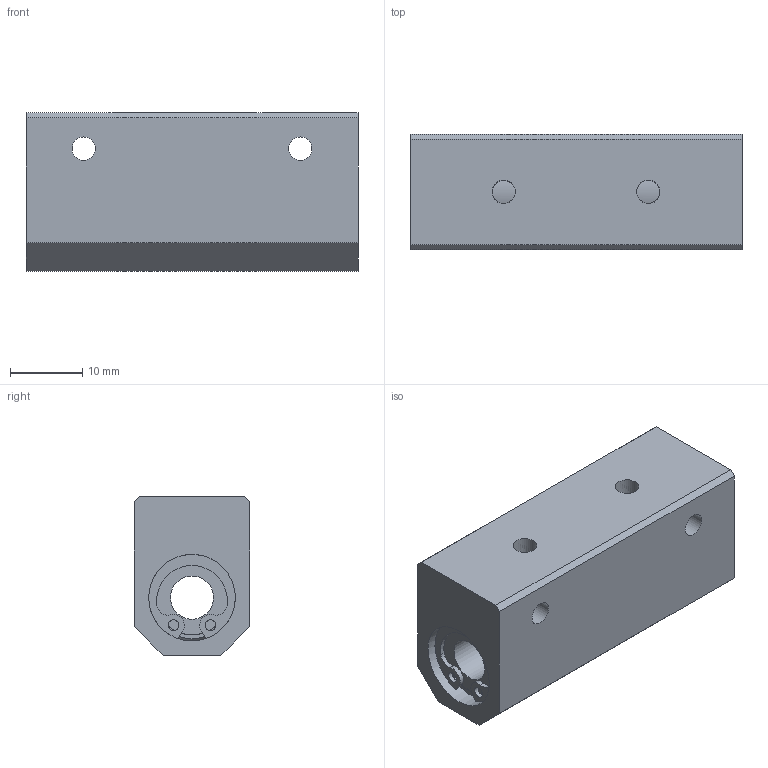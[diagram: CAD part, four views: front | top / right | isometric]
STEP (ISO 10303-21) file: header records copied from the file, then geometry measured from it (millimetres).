
FILE_DESCRIPTION((''),'2;1');
FILE_NAME('D:\製品 (図面)\カタログ用3D\メンテナンスフリー関連\STEP形式\CHW-MF\CHW6MF.stp','2010-06-01T15:31:25',('Tsuchiya'),(''),'Autodesk Inventor 10','Autodesk Inventor 10','');
FILE_SCHEMA(('AUTOMOTIVE_DESIGN { 1 0 10303 214 1 1 1 1 }'));
Length unit declared in the file: millimetre
Products named in the file (1): CHW6MF
Bounding box: 46 x 16 x 22 mm (x, y, z)
Volume: 13216.3 mm3; surface area: 5737.3 mm2
Topology: 1 solids, 3 shells, 67 faces, 169 edges, 108 vertices
Faces by surface type: plane 27, bspline 22, cylinder 18
Full cylindrical faces by diameter (mm): 1.5 x2, 6 x1, 10.3 x2, 11.5 x2, 12 x4
Entity records: 2196 total; most frequent: CARTESIAN_POINT 702, DIRECTION 304, ORIENTED_EDGE 272, EDGE_CURVE 136, AXIS2_PLACEMENT_3D 124, EDGE_LOOP 110, VERTEX_POINT 96, CIRCLE 78
